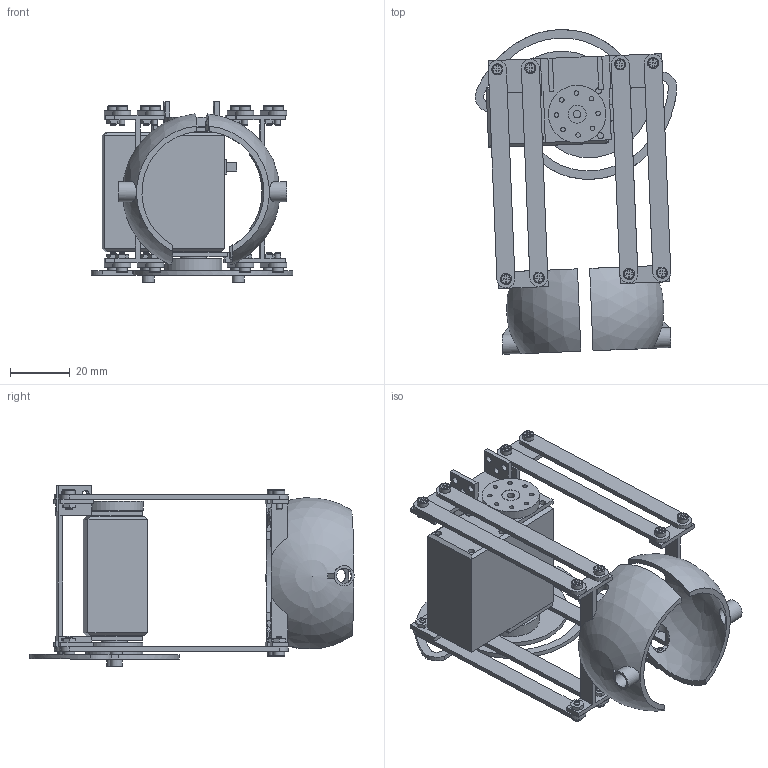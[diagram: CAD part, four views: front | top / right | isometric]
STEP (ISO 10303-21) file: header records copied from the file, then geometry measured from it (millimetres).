
FILE_DESCRIPTION(/* description */ (''),/* implementation_level */ '2;1');
FILE_NAME(/* name */ 'C:/Users/priba/Documents/Temp/gripper-a.step',/* time_stamp */ '2020-04-27T09:11:25+02:00',/* author */ (''),/* organization */ (''),/* preprocessor_version */ 'ST-DEVELOPER v18.1',/* originating_system */ 'Autodesk Translation Framework v9.2.0.1227',/* authorisation */ '');
FILE_SCHEMA (('AUTOMOTIVE_DESIGN { 1 0 10303 214 3 1 1 }'));
Length unit declared in the file: millimetre
Products named in the file (18): gripper-a; mrm-rd-5606hb-300; ServoBody; TopHorn; BottomHorn; GripperBody; GripperBody_1; GripperJaw; Jaw; Jaw(Mirror); GripperLever70Constraint; GripperLever70Constraint_1; LeverConstraint; Lever70; GripperConstraint2; GripperGroove; mrm-bolt5m2nyl; mrm-nut-m2nyl
Assembly tree (48 placements, depth 3):
  gripper-a
    mrm-rd-5606hb-300
      ServoBody
      TopHorn
      BottomHorn
    GripperBody
      GripperBody_1
    GripperJaw
      Jaw
    Jaw(Mirror)
    Lever70  x6
    GripperLever70Constraint
      LeverConstraint
    GripperLever70Constraint_1
      LeverConstraint
    GripperConstraint2
      GripperGroove
    mrm-bolt5m2nyl  x16
    mrm-nut-m2nyl  x11
Bounding box: 67.22 x 108.34 x 60.22 mm (x, y, z)
Volume: 52515.8 mm3; surface area: 40108 mm2
Topology: 42 solids, 42 shells, 750 faces, 1920 edges, 1311 vertices
Faces by surface type: plane 534, cylinder 174, bspline 22, torus 16, sphere 4
Full cylindrical faces by diameter (mm): 1.5 x15, 1.8 x8, 1.933 x16, 2 x34, 2.2 x26, 2.4 x12, 2.5 x3, 3.7 x16, 4 x2, 5.1 x2, 5.6 x1, 5.75 x1, 6 x2, 6.7 x2, 8.8 x1, 9 x1, 12.3 x2, 12.5 x2, 19.1 x1, 19.2 x1
Entity records: 11493 total; most frequent: CARTESIAN_POINT 2690, DIRECTION 1814, ORIENTED_EDGE 1606, EDGE_CURVE 803, AXIS2_PLACEMENT_3D 670, VERTEX_POINT 545, LINE 474, VECTOR 474
